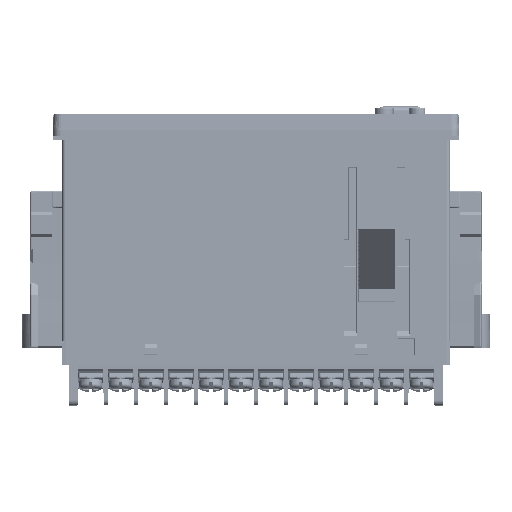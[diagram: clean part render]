
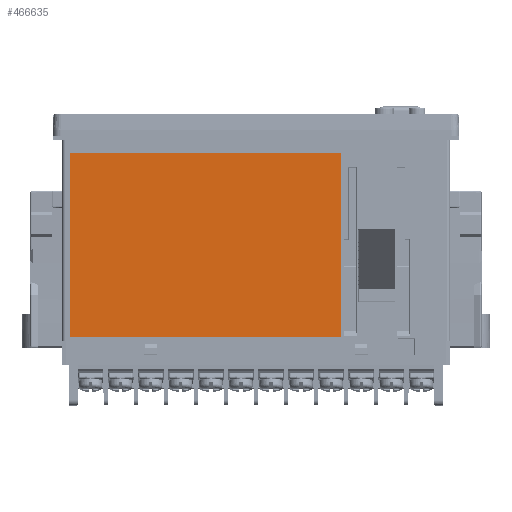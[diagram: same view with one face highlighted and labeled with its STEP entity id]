
A CAD part, left-side view. The second image highlights one B-rep face of the part: STEP entity #466635.
In plain terms, the highlighted planar face has unit normal (-1, 0, 0).
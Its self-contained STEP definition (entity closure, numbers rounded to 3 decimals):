
#6393 = DIRECTION ( 'NONE',  ( 0., 0., -1. ) ) ;
#30290 = AXIS2_PLACEMENT_3D ( 'NONE', #421959, #250559, #166748 ) ;
#40224 = VECTOR ( 'NONE', #349122, 1000. ) ;
#58050 = EDGE_CURVE ( 'NONE', #426641, #369618, #374505, .T. ) ;
#61650 = CARTESIAN_POINT ( 'NONE',  ( -45.625, 44., -49.4 ) ) ;
#82923 = EDGE_LOOP ( 'NONE', ( #278600, #507775, #377644, #268590 ) ) ;
#113626 = VECTOR ( 'NONE', #6393, 1000. ) ;
#145161 = CARTESIAN_POINT ( 'NONE',  ( -45.625, 44., -5.9 ) ) ;
#146178 = EDGE_CURVE ( 'NONE', #440688, #426641, #407632, .T. ) ;
#166748 = DIRECTION ( 'NONE',  ( 0., 0., 1. ) ) ;
#191005 = FACE_OUTER_BOUND ( 'NONE', #82923, .T. ) ;
#197622 = CARTESIAN_POINT ( 'NONE',  ( -45.625, 44., -49.4 ) ) ;
#213004 = CARTESIAN_POINT ( 'NONE',  ( -45.625, 44., -49.4 ) ) ;
#244019 = EDGE_CURVE ( 'NONE', #511158, #440688, #253522, .T. ) ;
#247944 = DIRECTION ( 'NONE',  ( 0., 0., 1. ) ) ;
#250559 = DIRECTION ( 'NONE',  ( -1., 0., 0. ) ) ;
#253522 = LINE ( 'NONE', #213004, #113626 ) ;
#265265 = CARTESIAN_POINT ( 'NONE',  ( -45.625, 44., -5.9 ) ) ;
#266273 = CARTESIAN_POINT ( 'NONE',  ( -45.625, -20., -5.9 ) ) ;
#268590 = ORIENTED_EDGE ( 'NONE', *, *, #244019, .T. ) ;
#278600 = ORIENTED_EDGE ( 'NONE', *, *, #146178, .T. ) ;
#300729 = VECTOR ( 'NONE', #320485, 1000. ) ;
#306802 = LINE ( 'NONE', #265265, #40224 ) ;
#320485 = DIRECTION ( 'NONE',  ( 0., -1., 0. ) ) ;
#332450 = CARTESIAN_POINT ( 'NONE',  ( -45.625, -20., -49.4 ) ) ;
#334419 = VECTOR ( 'NONE', #247944, 1000. ) ;
#349122 = DIRECTION ( 'NONE',  ( 0., 1., 0. ) ) ;
#369618 = VERTEX_POINT ( 'NONE', #266273 ) ;
#374505 = LINE ( 'NONE', #503069, #334419 ) ;
#377644 = ORIENTED_EDGE ( 'NONE', *, *, #521783, .T. ) ;
#407632 = LINE ( 'NONE', #61650, #300729 ) ;
#421959 = CARTESIAN_POINT ( 'NONE',  ( -45.625, -20., -49.4 ) ) ;
#426641 = VERTEX_POINT ( 'NONE', #332450 ) ;
#440688 = VERTEX_POINT ( 'NONE', #197622 ) ;
#462909 = PLANE ( 'NONE',  #30290 ) ;
#466635 = ADVANCED_FACE ( 'NONE', ( #191005 ), #462909, .T. ) ;
#503069 = CARTESIAN_POINT ( 'NONE',  ( -45.625, -20., -49.4 ) ) ;
#507775 = ORIENTED_EDGE ( 'NONE', *, *, #58050, .T. ) ;
#511158 = VERTEX_POINT ( 'NONE', #145161 ) ;
#521783 = EDGE_CURVE ( 'NONE', #369618, #511158, #306802, .T. ) ;
